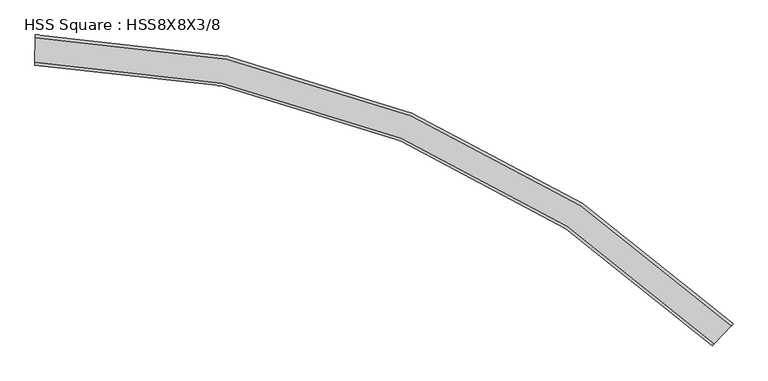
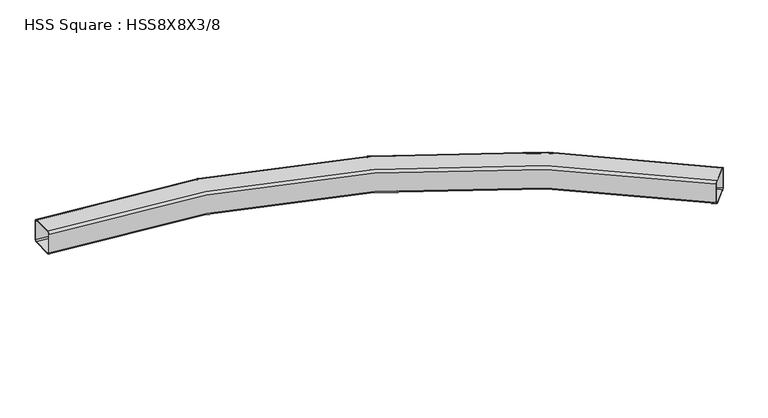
"""IFC4 building model written with IfcOpenShell, lengths in millimetres: beam geometry, HSS Square : HSS8X8X3/8."""

import ifcopenshell
import ifcopenshell.guid

model = None  # the IFC model being written
_history = None  # IfcOwnerHistory: only IFC2X3 demands one
_inside = {}  # id of a spatial element -> (the spatial element, [elements in it])
_under = {}  # id of a project, library or spatial element -> (it, [spatial elements below it])
_declared = {}  # id of a project -> (the project, [libraries it declares])
_typed = {}  # id of a type object -> (the type object, [elements of that type])
_made_of = {}  # id of a material, layer set ... -> (it, [elements and type objects made of it])


def new_model(schema):
    """Start an empty IFC model of exactly this schema.

    Asked for "IFC4X3", IfcOpenShell would pick the latest addendum, in which some entities
    have other attributes; the version numbers below select the first issue.
    IFC2X3 requires an IfcOwnerHistory on every rooted entity: one is made here for all.
    """
    global model, _history
    if schema == "IFC4X3":
        model = ifcopenshell.file(schema_version=(4, 3, 0, 0))
    else:
        model = ifcopenshell.file(schema=schema)
    _inside.clear()
    _under.clear()
    _declared.clear()
    _typed.clear()
    _made_of.clear()
    _history = None
    if model.schema == "IFC2X3":
        org = make("IfcOrganization", Name="unknown")
        user = make(
            "IfcPersonAndOrganization",
            ThePerson=make("IfcPerson", FamilyName="unknown"),
            TheOrganization=org,
        )
        app = make(
            "IfcApplication",
            ApplicationDeveloper=org,
            Version="unknown",
            ApplicationFullName="unknown",
            ApplicationIdentifier="unknown",
        )
        _history = make(
            "IfcOwnerHistory",
            OwningUser=user,
            OwningApplication=app,
            ChangeAction="ADDED",
            CreationDate=0,
        )
    return model


def make(cls, **values):
    """One entity of the class cls with the attributes given. An attribute that is None is left unset."""
    return model.create_entity(
        cls, **{name: value for name, value in values.items() if value is not None}
    )


def rooted(cls, **values):
    """An entity with a GlobalId (a new one), such as an element, a storey or a relation."""
    return make(cls, GlobalId=ifcopenshell.guid.new(), OwnerHistory=_history, **values)


def si_unit(unit_type, name, prefix=None):
    """IfcSIUnit, for example si_unit("LENGTHUNIT", "METRE", prefix="MILLI")."""
    return make("IfcSIUnit", UnitType=unit_type, Prefix=prefix, Name=name)


def assignment(units):
    """IfcUnitAssignment: the units of a project."""
    return None if units is None else make("IfcUnitAssignment", Units=units)


def point(xyz):
    """IfcCartesianPoint."""
    return None if xyz is None else make("IfcCartesianPoint", Coordinates=xyz)


def direction(xyz):
    """IfcDirection."""
    return None if xyz is None else make("IfcDirection", DirectionRatios=xyz)


def frame(location, z_axis=None, x_axis=None):
    """IfcAxis2Placement3D, a coordinate frame: its origin and axes. An axis left out is left unset."""
    return make(
        "IfcAxis2Placement3D",
        Location=point(location),
        Axis=direction(z_axis),
        RefDirection=direction(x_axis),
    )


def origin():
    """The frame at (0, 0, 0) with its axes left unset."""
    return frame((0.0, 0.0, 0.0))


def place(relative_to, where):
    """IfcLocalPlacement: puts the frame where relative to a parent placement (None: the world)."""
    return make(
        "IfcLocalPlacement", PlacementRelTo=relative_to, RelativePlacement=where
    )


def context(
    kind, dimensions, precision=None, world=None, true_north=None, identifier=None
):
    """IfcGeometricRepresentationContext, for example the 3D "Model" context."""
    return make(
        "IfcGeometricRepresentationContext",
        ContextIdentifier=identifier,
        ContextType=kind,
        CoordinateSpaceDimension=dimensions,
        Precision=precision,
        WorldCoordinateSystem=world,
        TrueNorth=true_north,
    )


def project(units=None, contexts=None):
    """IfcProject with its units and contexts."""
    return rooted(
        "IfcProject",
        Name="project",
        RepresentationContexts=contexts,
        UnitsInContext=assignment(units),
    )


def spatial(cls, under=None, at=None, **own):
    """A site, building, storey or space (cls), placed at a placement, below another one or the project."""
    s = rooted(cls, ObjectPlacement=at, **own)
    if under is not None:
        _under.setdefault(under.id(), (under, []))[1].append(s)
    return s


def polyline(points):
    """IfcPolyline through the points."""
    return make("IfcPolyline", Points=[point(p) for p in points])


def circle_curve(where, radius):
    """IfcCircle in the frame where."""
    return make("IfcCircle", Position=where, Radius=radius)


def ellipse_curve(where, semi_axis1, semi_axis2):
    """IfcEllipse in the frame where."""
    return make(
        "IfcEllipse", Position=where, SemiAxis1=semi_axis1, SemiAxis2=semi_axis2
    )


def trimmed(basis, trim1, trim2, sense, master):
    """IfcTrimmedCurve: the piece of a basis curve between two trims."""
    return make(
        "IfcTrimmedCurve",
        BasisCurve=basis,
        Trim1=trim1,
        Trim2=trim2,
        SenseAgreement=sense,
        MasterRepresentation=master,
    )


def shape(context_of_items, identifier, shape_type, items):
    """IfcShapeRepresentation: the items that make up one representation, for example the "Body"."""
    return make(
        "IfcShapeRepresentation",
        ContextOfItems=context_of_items,
        RepresentationIdentifier=identifier,
        RepresentationType=shape_type,
        Items=items,
    )


def source(mapping_origin, context_of_items, identifier, shape_type, items):
    """IfcRepresentationMap: a shape defined once, which mapped items show again and again."""
    return make(
        "IfcRepresentationMap",
        MappingOrigin=mapping_origin,
        MappedRepresentation=shape(context_of_items, identifier, shape_type, items),
    )


def transform(
    local_origin,
    x_axis=None,
    y_axis=None,
    z_axis=None,
    scale=None,
    scale2=None,
    scale3=None,
    uniform=True,
):
    """IfcCartesianTransformationOperator3D, or its non-uniform kind. x_axis, y_axis, z_axis: its Axis1, 2, 3."""
    if uniform:
        return make(
            "IfcCartesianTransformationOperator3D",
            Axis1=direction(x_axis),
            Axis2=direction(y_axis),
            LocalOrigin=point(local_origin),
            Scale=scale,
            Axis3=direction(z_axis),
        )
    return make(
        "IfcCartesianTransformationOperator3DnonUniform",
        Axis1=direction(x_axis),
        Axis2=direction(y_axis),
        LocalOrigin=point(local_origin),
        Scale=scale,
        Axis3=direction(z_axis),
        Scale2=scale2,
        Scale3=scale3,
    )


def mapped(mapping_source, mapping_target):
    """IfcMappedItem: shows the shape of a source again, moved by a transform."""
    return make(
        "IfcMappedItem", MappingSource=mapping_source, MappingTarget=mapping_target
    )


def made_of(thing, what):
    """Note that an element or type object is made of a material, layer set ...; save() writes the relation."""
    if what is not None:
        _made_of.setdefault(what.id(), (what, []))[1].append(thing)
    return thing


def element(
    cls,
    number,
    at=None,
    inside=None,
    cuts=None,
    type_object=None,
    material=None,
    context=None,
    identifier="Body",
    shape_type=None,
    held_by="IfcProductDefinitionShape",
    body=None,
    shapes=None,
    **own,
):
    """One element of the class cls, such as IfcWall. Its Tag is "e" and its number.

    at: its placement. inside: the storey or other place that contains it. cuts: it is an
    opening in that element (IfcRelVoidsElement). A single representation is given by context,
    identifier, shape_type and body (its items); several are given by shapes. held_by: the class
    of the entity that holds the representations. save() writes the other relations.
    """
    e = rooted(cls, Tag="e%d" % number, ObjectPlacement=at, **own)
    if body is not None:
        shapes = [shape(context, identifier, shape_type, body)]
    if shapes is not None:
        e.Representation = make(held_by, Representations=shapes)
    if inside is not None:
        _inside.setdefault(inside.id(), (inside, []))[1].append(e)
    if cuts is not None:
        rooted(
            "IfcRelVoidsElement", RelatingBuildingElement=cuts, RelatedOpeningElement=e
        )
    if type_object is not None:
        _typed.setdefault(type_object.id(), (type_object, []))[1].append(e)
    return made_of(e, material)


def aggregate(whole, parts):
    """IfcRelAggregates: a whole, such as a stair, and the parts it consists of."""
    return rooted("IfcRelAggregates", RelatingObject=whole, RelatedObjects=parts)


def save(model, path):
    """Write the relations noted so far, then the file.

    IfcRelAggregates (storeys below a building ...), IfcRelContainedInSpatialStructure (elements
    in a storey), IfcRelDefinesByType, IfcRelAssociatesMaterial and IfcRelDeclares: one each for
    every whole, place, type object, material and project.
    """
    for whole, parts in _under.values():
        aggregate(whole, parts)
    for where, things in _inside.values():
        rooted(
            "IfcRelContainedInSpatialStructure",
            RelatedElements=things,
            RelatingStructure=where,
        )
    for kind, things in _typed.values():
        rooted("IfcRelDefinesByType", RelatedObjects=things, RelatingType=kind)
    for what, things in _made_of.values():
        rooted("IfcRelAssociatesMaterial", RelatedObjects=things, RelatingMaterial=what)
    for by, libraries in _declared.values():
        rooted("IfcRelDeclares", RelatingContext=by, RelatedDefinitions=libraries)
    model.write(path)


def plane_surface(at):
    """IfcPlane: the flat surface through the origin of the frame at, square to its z axis."""
    return make("IfcPlane", Position=at)


def cylinder_surface(at, radius):
    """IfcCylindricalSurface: all points at the distance radius from the z axis of the frame at."""
    return make("IfcCylindricalSurface", Position=at, Radius=radius)


def revolved_surface(curve, axis_point, axis_direction):
    """IfcSurfaceOfRevolution: the curve turned about the line through axis_point along axis_direction."""
    return make(
        "IfcSurfaceOfRevolution",
        SweptCurve=make("IfcArbitraryOpenProfileDef", ProfileType="CURVE", Curve=curve),
        AxisPosition=make("IfcAxis1Placement", Location=point(axis_point), Axis=direction(axis_direction)),
    )


def advanced_brep(points, edges, surfaces, faces):
    """IfcAdvancedBrep: a solid bounded by faces that lie on surfaces and meet in shared edges.

    An edge is (start, end): straight between two places in points (the first is 0);
    or (start, end, curve); or (start, end, curve, False) where it runs against its curve.
    A face is (place in surfaces, loops), or (place, loops, False) where it looks against
    its surface's normal. A loop lists edges by number (the first is 1), with a minus sign
    where the edge is run from its end to its start. The first loop is the outer one.
    """
    corners = [point(p) for p in points]
    vertices = [make("IfcVertexPoint", VertexGeometry=c) for c in corners]
    made = []
    for start, end, *more in edges:
        made.append(
            make(
                "IfcEdgeCurve",
                EdgeStart=vertices[start],
                EdgeEnd=vertices[end],
                EdgeGeometry=more[0] if more else make("IfcPolyline", Points=[corners[start], corners[end]]),
                SameSense=more[1] if len(more) > 1 else True,
            )
        )
    hull = []
    for where, loops, *sense in faces:
        bounds = []
        for j, loop in enumerate(loops):
            ring = [make("IfcOrientedEdge", EdgeElement=made[abs(k) - 1], Orientation=k > 0) for k in loop]
            bounds.append(
                make(
                    "IfcFaceOuterBound" if j == 0 else "IfcFaceBound",
                    Bound=make("IfcEdgeLoop", EdgeList=ring),
                    Orientation=True,
                )
            )
        hull.append(make("IfcAdvancedFace", Bounds=bounds, FaceSurface=surfaces[where], SameSense=sense[0] if sense else True))
    return make("IfcAdvancedBrep", Outer=make("IfcClosedShell", CfsFaces=hull))


def hss_square_hss8x8x3_8_81874951(model_context):
    return source(origin(), model_context, "Body", "AdvancedBrep", [
        advanced_brep(
        [(4804.7973664, -1841.5400592, 82.55), (4791.5549299, -1855.2345974, 101.6), (4676.7871471, -1973.9205951, 101.6), (4663.5447107, -1987.6151333, 82.55), (4663.5447107, -1987.6151333, -82.55), (4676.7871471, -1973.9205951, -101.6), (4791.5549299, -1855.2345974, -101.6), (4804.7973664, -1841.5400592, -82.55), (4676.7871471, -1973.9205951, 92.075), (4791.5549299, -1855.2345974, 92.075), (4798.1761481, -1848.3873283, 82.55), (4798.1761481, -1848.3873283, -82.55), (4791.5549299, -1855.2345974, -92.075), (4676.7871471, -1973.9205951, -92.075), (4670.1659289, -1980.7678642, -82.55), (4670.1659289, -1980.7678642, 82.55), (115.9920812, 100.6266812, 82.55), (115.9920812, 100.6266812, -82.55), (115.672397, 81.5793638, -101.6), (112.9018007, -83.4973875, -101.6), (112.5821165, -102.5447049, -82.55), (112.5821165, -102.5447049, 82.55), (112.9018007, -83.4973875, 101.6), (115.672397, 81.5793638, 101.6), (112.9018007, -83.4973875, 92.075), (112.7419586, -93.0210462, 82.55), (112.7419586, -93.0210462, -82.55), (112.9018007, -83.4973875, -92.075), (115.672397, 81.5793638, -92.075), (115.8322391, 91.1030225, -82.55), (115.8322391, 91.1030225, 82.55), (115.672397, 81.5793638, 92.075)],
        [
            (0, 1, circle_curve(frame((4791.5549299, -1855.2345974, 82.55), z_axis=(0.7188733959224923, -0.6951410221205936, 0.0), x_axis=(-0.6951410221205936, -0.7188733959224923, 0.0)), 19.05)),
            (1, 2),
            (2, 3, circle_curve(frame((4676.7871471, -1973.9205951, 82.55), z_axis=(0.7188733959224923, -0.6951410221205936, 0.0), x_axis=(-0.6951410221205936, -0.7188733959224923, 0.0)), 19.05)),
            (3, 4),
            (4, 5, circle_curve(frame((4676.7871471, -1973.9205951, -82.55), z_axis=(0.718873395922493, -0.6951410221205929, 0.0), x_axis=(-0.6951410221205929, -0.718873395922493, 0.0)), 19.05)),
            (5, 6),
            (6, 7, circle_curve(frame((4791.5549299, -1855.2345974, -82.55), z_axis=(0.718873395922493, -0.6951410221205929, 0.0), x_axis=(-0.6951410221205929, -0.718873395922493, 0.0)), 19.05)),
            (7, 0),
            (8, 9),
            (9, 10, circle_curve(frame((4791.5549299, -1855.2345974, 82.55), z_axis=(-0.7188733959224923, 0.6951410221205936, 0.0), x_axis=(-0.6951410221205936, -0.7188733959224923, 0.0)), 9.525)),
            (10, 11),
            (11, 12, circle_curve(frame((4791.5549299, -1855.2345974, -82.55), z_axis=(-0.7188733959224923, 0.6951410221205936, 0.0), x_axis=(-0.6951410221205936, -0.7188733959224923, 0.0)), 9.525)),
            (12, 13),
            (13, 14, circle_curve(frame((4676.7871471, -1973.9205951, -82.55), z_axis=(-0.7188733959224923, 0.6951410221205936, 0.0), x_axis=(-0.6951410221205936, -0.7188733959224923, 0.0)), 9.525)),
            (14, 15),
            (15, 8, circle_curve(frame((4676.7871471, -1973.9205951, 82.55), z_axis=(-0.7188733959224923, 0.6951410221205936, 0.0), x_axis=(-0.6951410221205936, -0.7188733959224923, 0.0)), 9.525)),
            (16, 17),
            (17, 18, circle_curve(frame((115.672397, 81.5793638, -82.55), z_axis=(-0.9998591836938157, 0.016781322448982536, 0.0), x_axis=(-0.016781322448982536, -0.9998591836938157, 0.0)), 19.05)),
            (18, 19),
            (19, 20, circle_curve(frame((112.9018007, -83.4973875, -82.55), z_axis=(-0.9998591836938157, 0.016781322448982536, 0.0), x_axis=(-0.016781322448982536, -0.9998591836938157, 0.0)), 19.05)),
            (20, 21),
            (21, 22, circle_curve(frame((112.9018007, -83.4973875, 82.55), z_axis=(-0.9998591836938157, 0.016781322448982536, 0.0), x_axis=(-0.016781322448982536, -0.9998591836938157, 0.0)), 19.05)),
            (22, 23),
            (23, 16, circle_curve(frame((115.672397, 81.5793638, 82.55), z_axis=(-0.9998591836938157, 0.016781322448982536, 0.0), x_axis=(-0.016781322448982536, -0.9998591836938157, 0.0)), 19.05)),
            (24, 25, circle_curve(frame((112.9018007, -83.4973875, 82.55), z_axis=(0.9998591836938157, -0.016781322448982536, 0.0), x_axis=(-0.016781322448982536, -0.9998591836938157, 0.0)), 9.525)),
            (25, 26),
            (26, 27, circle_curve(frame((112.9018007, -83.4973875, -82.55), z_axis=(0.9998591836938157, -0.016781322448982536, 0.0), x_axis=(-0.016781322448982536, -0.9998591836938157, 0.0)), 9.525)),
            (27, 28),
            (28, 29, circle_curve(frame((115.672397, 81.5793638, -82.55), z_axis=(0.9998591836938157, -0.016781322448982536, 0.0), x_axis=(-0.016781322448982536, -0.9998591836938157, 0.0)), 9.525)),
            (29, 30),
            (30, 31, circle_curve(frame((115.672397, 81.5793638, 82.55), z_axis=(0.9998591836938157, -0.016781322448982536, 0.0), x_axis=(-0.016781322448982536, -0.9998591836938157, 0.0)), 9.525)),
            (31, 24),
            (0, 16, circle_curve(frame((0.0, -6810.375, 82.55), z_axis=(0.0, 0.0, 1.0), x_axis=(1.0, 0.0, 0.0)), 6911.975)),
            (23, 1, circle_curve(frame((0.0, -6810.375, 101.6), z_axis=(0.0, 0.0, -1.0), x_axis=(1.0, 0.0, 0.0)), 6892.925)),
            (22, 2, circle_curve(frame((0.0, -6810.375, 101.6), z_axis=(0.0, 0.0, -1.0), x_axis=(1.0, 0.0, 0.0)), 6727.825)),
            (21, 3, circle_curve(frame((0.0, -6810.375, 82.55), z_axis=(0.0, 0.0, -1.0), x_axis=(1.0, 0.0, 0.0)), 6708.775)),
            (20, 4, circle_curve(frame((0.0, -6810.375, -82.55), z_axis=(0.0, 0.0, -1.0), x_axis=(1.0, 0.0, 0.0)), 6708.775)),
            (19, 5, circle_curve(frame((0.0, -6810.375, -101.6), z_axis=(0.0, 0.0, -1.0), x_axis=(1.0, 0.0, 0.0)), 6727.825)),
            (18, 6, circle_curve(frame((0.0, -6810.375, -101.6), z_axis=(0.0, 0.0, -1.0), x_axis=(1.0, 0.0, 0.0)), 6892.925)),
            (17, 7, circle_curve(frame((0.0, -6810.375, -82.55), z_axis=(0.0, 0.0, -1.0), x_axis=(1.0, 0.0, 0.0)), 6911.975)),
            (8, 24, circle_curve(frame((0.0, -6810.375, 92.075), z_axis=(0.0, 0.0, 1.0), x_axis=(1.0, 0.0, 0.0)), 6727.825)),
            (31, 9, circle_curve(frame((0.0, -6810.375, 92.075), z_axis=(0.0, 0.0, -1.0), x_axis=(1.0, 0.0, 0.0)), 6892.925)),
            (30, 10, circle_curve(frame((0.0, -6810.375, 82.55), z_axis=(0.0, 0.0, -1.0), x_axis=(1.0, 0.0, 0.0)), 6902.45)),
            (29, 11, circle_curve(frame((0.0, -6810.375, -82.55), z_axis=(0.0, 0.0, -1.0), x_axis=(1.0, 0.0, 0.0)), 6902.45)),
            (28, 12, circle_curve(frame((0.0, -6810.375, -92.075), z_axis=(0.0, 0.0, -1.0), x_axis=(1.0, 0.0, 0.0)), 6892.925)),
            (27, 13, circle_curve(frame((0.0, -6810.375, -92.075), z_axis=(0.0, 0.0, -1.0), x_axis=(1.0, 0.0, 0.0)), 6727.825)),
            (26, 14, circle_curve(frame((0.0, -6810.375, -82.55), z_axis=(0.0, 0.0, -1.0), x_axis=(1.0, 0.0, 0.0)), 6718.3)),
            (25, 15, circle_curve(frame((0.0, -6810.375, 82.55), z_axis=(0.0, 0.0, -1.0), x_axis=(1.0, 0.0, 0.0)), 6718.3)),
        ],
        [
            plane_surface(frame((4734.1710385, -1914.5775962, 0.0), z_axis=(0.7188733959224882, -0.6951410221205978, 0.0), x_axis=(0.0, 0.0, 1.0))),
            plane_surface(frame((114.2870989, -0.9590119, 0.0), z_axis=(-0.9998591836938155, 0.016781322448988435, 0.0), x_axis=(0.0, 0.0, 1.0))),
            revolved_surface(trimmed(ellipse_curve(frame((6892.925, -6810.375, 82.55), z_axis=(0.0, 1.0, 0.0), x_axis=(-1.0, 0.0, 0.0)), 19.05, 19.05), [point((6892.925, -6810.375, 101.6))], [point((6911.975, -6810.375, 82.55))], True, "CARTESIAN"), (0.0, -6810.375, 0.0), (0.0, 0.0, -1.0)),
            plane_surface(frame((0.0, -6810.375, 101.6), z_axis=(0.0, 0.0, 1.0), x_axis=(1.0, 0.0, 0.0))),
            revolved_surface(trimmed(ellipse_curve(frame((6727.825, -6810.375, 82.55), z_axis=(0.0, 1.0, 0.0), x_axis=(-1.0, 0.0, 0.0)), 19.05, 19.05), [point((6708.775, -6810.375, 82.55))], [point((6727.825, -6810.375, 101.6))], True, "CARTESIAN"), (0.0, -6810.375, 0.0), (0.0, 0.0, -1.0)),
            revolved_surface(polyline([(6708.775, -6810.375, -82.55), (6708.775, -6810.375, 82.55)]), (0.0, -6810.375, 0.0), (0.0, 0.0, -1.0)),
            revolved_surface(trimmed(ellipse_curve(frame((6727.825, -6810.375, -82.55), z_axis=(0.0, 1.0, 0.0), x_axis=(-1.0, 0.0, 0.0)), 19.05, 19.05), [point((6727.825, -6810.375, -101.6))], [point((6708.775, -6810.375, -82.55))], True, "CARTESIAN"), (0.0, -6810.375, 0.0), (0.0, 0.0, -1.0)),
            plane_surface(frame((0.0, -6810.375, -101.6), z_axis=(0.0, 0.0, -1.0), x_axis=(1.0, 0.0, 0.0))),
            revolved_surface(trimmed(ellipse_curve(frame((6892.925, -6810.375, -82.55), z_axis=(0.0, 1.0, 0.0), x_axis=(-1.0, 0.0, 0.0)), 19.05, 19.05), [point((6911.975, -6810.375, -82.55))], [point((6892.925, -6810.375, -101.6))], True, "CARTESIAN"), (0.0, -6810.375, 0.0), (0.0, 0.0, -1.0)),
            cylinder_surface(frame((0.0, -6810.375, 0.0), z_axis=(0.0, 0.0, -1.0), x_axis=(1.0, 0.0, 0.0)), 6911.975),
            plane_surface(frame((0.0, -6810.375, 92.075), z_axis=(0.0, 0.0, -1.0), x_axis=(1.0, 0.0, 0.0))),
            revolved_surface(trimmed(ellipse_curve(frame((6892.925, -6810.375, 82.55), z_axis=(0.0, -1.0, 0.0), x_axis=(-1.0, 0.0, 0.0)), 9.525, 9.525), [point((6902.45, -6810.375, 82.55))], [point((6892.925, -6810.375, 92.075))], True, "CARTESIAN"), (0.0, -6810.375, 0.0), (0.0, 0.0, -1.0)),
            revolved_surface(polyline([(6902.45, -6810.375, -82.55), (6902.45, -6810.375, 82.55)]), (0.0, -6810.375, 0.0), (0.0, 0.0, -1.0)),
            revolved_surface(trimmed(ellipse_curve(frame((6892.925, -6810.375, -82.55), z_axis=(0.0, -1.0, 0.0), x_axis=(-1.0, 0.0, 0.0)), 9.525, 9.525), [point((6892.925, -6810.375, -92.075))], [point((6902.45, -6810.375, -82.55))], True, "CARTESIAN"), (0.0, -6810.375, 0.0), (0.0, 0.0, -1.0)),
            plane_surface(frame((0.0, -6810.375, -92.075), z_axis=(0.0, 0.0, 1.0), x_axis=(1.0, 0.0, 0.0))),
            revolved_surface(trimmed(ellipse_curve(frame((6727.825, -6810.375, -82.55), z_axis=(0.0, -1.0, 0.0), x_axis=(-1.0, 0.0, 0.0)), 9.525, 9.525), [point((6718.3, -6810.375, -82.55))], [point((6727.825, -6810.375, -92.075))], True, "CARTESIAN"), (0.0, -6810.375, 0.0), (0.0, 0.0, -1.0)),
            cylinder_surface(frame((0.0, -6810.375, 0.0), z_axis=(0.0, 0.0, -1.0), x_axis=(1.0, 0.0, 0.0)), 6718.3),
            revolved_surface(trimmed(ellipse_curve(frame((6727.825, -6810.375, 82.55), z_axis=(0.0, -1.0, 0.0), x_axis=(-1.0, 0.0, 0.0)), 9.525, 9.525), [point((6727.825, -6810.375, 92.075))], [point((6718.3, -6810.375, 82.55))], True, "CARTESIAN"), (0.0, -6810.375, 0.0), (0.0, 0.0, -1.0)),
        ],
        [
            (0, [[1, 2, 3, 4, 5, 6, 7, 8], [9, 10, 11, 12, 13, 14, 15, 16]]),
            (1, [[17, 18, 19, 20, 21, 22, 23, 24], [25, 26, 27, 28, 29, 30, 31, 32]]),
            (2, [[-1, 33, -24, 34]]),
            (3, [[-2, -34, -23, 35]]),
            (4, [[-3, -35, -22, 36]]),
            (5, [[-4, -36, -21, 37]]),
            (6, [[-5, -37, -20, 38]]),
            (7, [[-6, -38, -19, 39]]),
            (8, [[-7, -39, -18, 40]]),
            (9, [[-8, -40, -17, -33]]),
            (10, [[-9, 41, -32, 42]]),
            (11, [[-10, -42, -31, 43]]),
            (12, [[-11, -43, -30, 44]]),
            (13, [[-12, -44, -29, 45]]),
            (14, [[-13, -45, -28, 46]]),
            (15, [[-14, -46, -27, 47]]),
            (16, [[-15, -47, -26, 48]]),
            (17, [[-16, -48, -25, -41]]),
        ],
    ),
    ])


if __name__ == "__main__":
    model = new_model("IFC4")
    model_context = context("Model", 3, world=origin())
    ifc_project = project(units=[si_unit("LENGTHUNIT", "METRE", prefix="MILLI")], contexts=[model_context])
    site = spatial("IfcSite", under=ifc_project)
    building = spatial("IfcBuilding", under=site)
    placement = place(None, origin())
    hss_square_hss8x8x3_8_shape = hss_square_hss8x8x3_8_81874951(model_context)
    element("IfcBeam", 1, ObjectType="HSS Square : HSS8X8X3/8", at=placement, inside=building, context=model_context, shape_type="MappedRepresentation", body=[
        mapped(hss_square_hss8x8x3_8_shape, transform((0.0, 0.0, 0.0), x_axis=(1.0, 0.0, 0.0), y_axis=(0.0, 1.0, 0.0), z_axis=(0.0, 0.0, 1.0))),
    ])
    save(model, "model.ifc")
